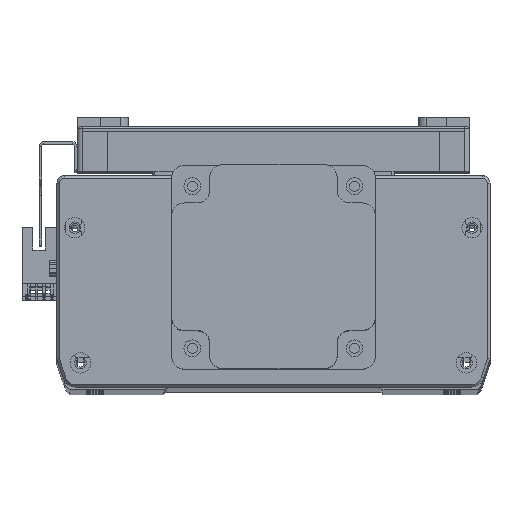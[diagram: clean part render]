
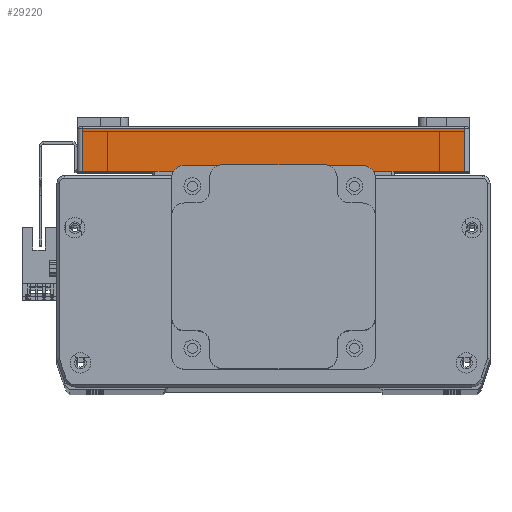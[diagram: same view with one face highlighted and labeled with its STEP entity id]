
A CAD part, top view. The second image highlights one B-rep face of the part: STEP entity #29220.
In plain terms, the highlighted planar face has unit normal (0, 0, 1) as drawn and (-1, 0, 0) by its records, which use the part's own axes.
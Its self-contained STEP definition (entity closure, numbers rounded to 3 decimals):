
#19200 = DIRECTION ( 'NONE',  ( 0., 0., -1. ) ) ;
#19240 = CARTESIAN_POINT ( 'NONE',  ( -115., 17., -75. ) ) ;
#19287 = DIRECTION ( 'NONE',  ( 0., 0., 1. ) ) ;
#19301 = CARTESIAN_POINT ( 'NONE',  ( -115., 0., -77. ) ) ;
#19519 = CARTESIAN_POINT ( 'NONE',  ( -115., 18., -75. ) ) ;
#19568 = DIRECTION ( 'NONE',  ( 0., -1., 0. ) ) ;
#19666 = CARTESIAN_POINT ( 'NONE',  ( -115., 18., 75. ) ) ;
#19701 = DIRECTION ( 'NONE',  ( 0., 1., 0. ) ) ;
#23839 = FACE_OUTER_BOUND ( 'NONE', #58639, .T. ) ;
#29220 = ADVANCED_FACE ( 'NONE', ( #23839 ), #36229, .F. ) ;
#31277 = AXIS2_PLACEMENT_3D ( 'NONE', #36263, #36258, #36259 ) ;
#36229 = PLANE ( 'NONE',  #31277 ) ;
#36258 = DIRECTION ( 'NONE',  ( 1., 0., 0. ) ) ;
#36259 = DIRECTION ( 'NONE',  ( 0., 0., -1. ) ) ;
#36263 = CARTESIAN_POINT ( 'NONE',  ( -115., 18., -77. ) ) ;
#38730 = ORIENTED_EDGE ( 'NONE', *, *, #52063, .T. ) ;
#38766 = ORIENTED_EDGE ( 'NONE', *, *, #52293, .T. ) ;
#38771 = ORIENTED_EDGE ( 'NONE', *, *, #52013, .T. ) ;
#38785 = ORIENTED_EDGE ( 'NONE', *, *, #52211, .T. ) ;
#52013 = EDGE_CURVE ( 'NONE', #64933, #64907, #60380, .T. ) ;
#52063 = EDGE_CURVE ( 'NONE', #65007, #64937, #60469, .T. ) ;
#52211 = EDGE_CURVE ( 'NONE', #64907, #65007, #59350, .T. ) ;
#52293 = EDGE_CURVE ( 'NONE', #64937, #64933, #59718, .T. ) ;
#53735 = CARTESIAN_POINT ( 'NONE',  ( -115., 17., 75. ) ) ;
#53737 = CARTESIAN_POINT ( 'NONE',  ( -115., 17., -75. ) ) ;
#53757 = CARTESIAN_POINT ( 'NONE',  ( -115., 0., 75. ) ) ;
#53778 = CARTESIAN_POINT ( 'NONE',  ( -115., 0., -75. ) ) ;
#58639 = EDGE_LOOP ( 'NONE', ( #38766, #38771, #38785, #38730 ) ) ;
#59350 = LINE ( 'NONE', #19519, #59357 ) ;
#59357 = VECTOR ( 'NONE', #19568, 1000. ) ;
#59718 = LINE ( 'NONE', #19666, #59745 ) ;
#59745 = VECTOR ( 'NONE', #19701, 1000. ) ;
#60370 = VECTOR ( 'NONE', #19200, 1000. ) ;
#60380 = LINE ( 'NONE', #19240, #60370 ) ;
#60457 = VECTOR ( 'NONE', #19287, 1000. ) ;
#60469 = LINE ( 'NONE', #19301, #60457 ) ;
#64907 = VERTEX_POINT ( 'NONE', #53737 ) ;
#64933 = VERTEX_POINT ( 'NONE', #53735 ) ;
#64937 = VERTEX_POINT ( 'NONE', #53757 ) ;
#65007 = VERTEX_POINT ( 'NONE', #53778 ) ;
